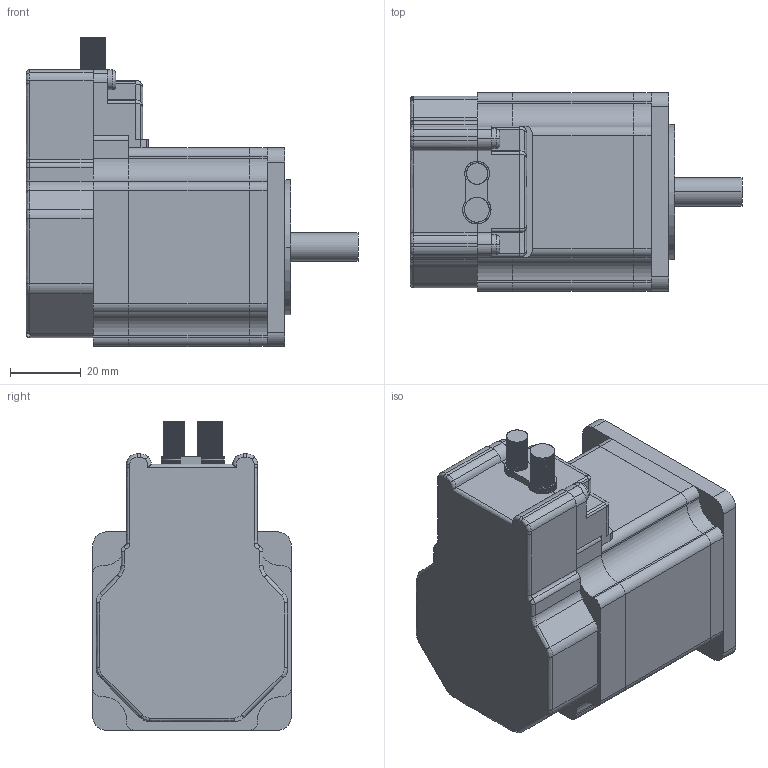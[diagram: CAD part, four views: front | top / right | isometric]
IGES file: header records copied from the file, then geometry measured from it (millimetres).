
Start section: IMSI TurboCAD v14.0
Global section: author: NULL; organization: NULL; date: 20110825.103309; units: millimetre
Bounding box: 93.59 x 56 x 87.11 mm (x, y, z)
Surface area: 52444.2 mm2 (no closed solid volume)
Topology: 0 solids, 0 shells, 705 faces, 3988 edges, 3984 vertices
Faces by surface type: extrusion 540, revolution 140, bspline 25
